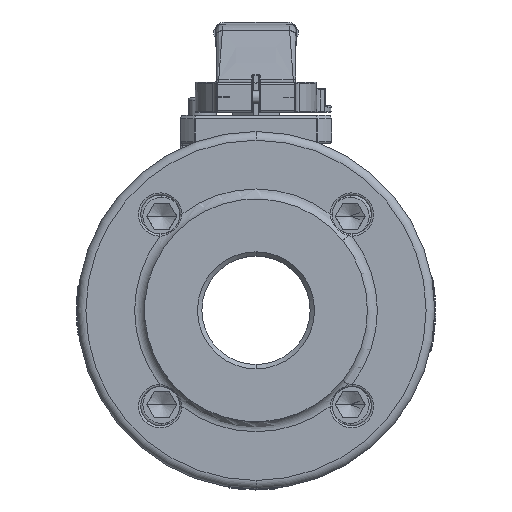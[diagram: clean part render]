
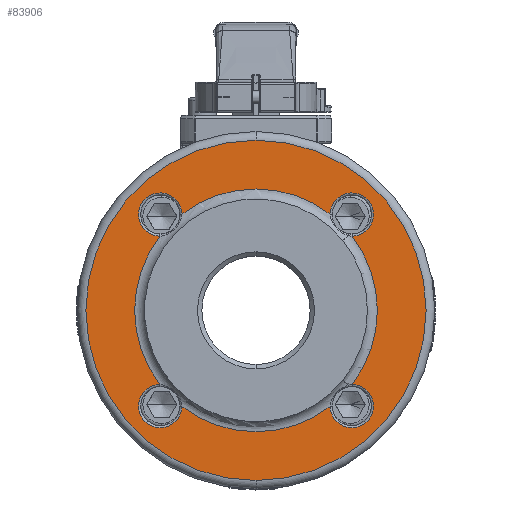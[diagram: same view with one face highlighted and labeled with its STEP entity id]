
A CAD part, left-side view. The second image highlights one B-rep face of the part: STEP entity #83906.
In plain terms, the highlighted planar face has unit normal (-1, 0, 0).
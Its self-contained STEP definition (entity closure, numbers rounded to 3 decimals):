
#19998=CARTESIAN_POINT('',(-57.,0.,0.));
#19999=DIRECTION('',(1.,0.,0.));
#20000=DIRECTION('',(0.,-0.611,-0.792));
#20001=AXIS2_PLACEMENT_3D('',#19998,#19999,#20000);
#20003=CARTESIAN_POINT('',(-57.,0.,0.));
#20004=DIRECTION('',(-1.,0.,0.));
#20005=DIRECTION('',(0.,0.792,0.611));
#20006=AXIS2_PLACEMENT_3D('',#20003,#20004,#20005);
#20008=CARTESIAN_POINT('',(-57.,0.,0.));
#20009=DIRECTION('',(1.,0.,0.));
#20010=DIRECTION('',(0.,0.611,0.792));
#20011=AXIS2_PLACEMENT_3D('',#20008,#20009,#20010);
#20018=CARTESIAN_POINT('',(-57.,0.,0.));
#20019=DIRECTION('',(-1.,0.,0.));
#20020=DIRECTION('',(0.,-0.792,-0.611));
#20021=AXIS2_PLACEMENT_3D('',#20018,#20019,#20020);
#20028=CARTESIAN_POINT('',(-57.,-44.347,
34.195));
#20134=CARTESIAN_POINT('',(-57.,-34.195,
44.347));
#20148=CARTESIAN_POINT('',(-57.,-44.194,44.194));
#20149=DIRECTION('',(1.,0.,0.));
#20150=DIRECTION('',(0.,1.,0.015));
#20151=AXIS2_PLACEMENT_3D('',#20148,#20149,#20150);
#20173=CARTESIAN_POINT('',(-57.,0.,0.));
#20174=DIRECTION('',(1.,0.,0.));
#20175=DIRECTION('',(0.,0.,-1.));
#20176=AXIS2_PLACEMENT_3D('',#20173,#20174,#20175);
#20196=CARTESIAN_POINT('',(-57.,0.,0.));
#20197=DIRECTION('',(1.,0.,0.));
#20198=DIRECTION('',(0.,0.,1.));
#20199=AXIS2_PLACEMENT_3D('',#20196,#20197,#20198);
#20415=CARTESIAN_POINT('',(-57.,44.347,
34.195));
#20479=CARTESIAN_POINT('',(-57.,44.194,44.194));
#20480=DIRECTION('',(1.,0.,0.));
#20481=DIRECTION('',(0.,0.015,-1.));
#20482=AXIS2_PLACEMENT_3D('',#20479,#20480,#20481);
#20488=CARTESIAN_POINT('',(-57.,34.195,
44.347));
#20556=CARTESIAN_POINT('',(-57.,-44.194,-44.194));
#20557=DIRECTION('',(1.,0.,0.));
#20558=DIRECTION('',(0.,-0.015,1.));
#20559=AXIS2_PLACEMENT_3D('',#20556,#20557,#20558);
#20572=CARTESIAN_POINT('',(-57.,-44.347,
-34.195));
#20666=CARTESIAN_POINT('',(-57.,-34.195,
-44.347));
#20724=CARTESIAN_POINT('',(-57.,34.195,
-44.347));
#20738=CARTESIAN_POINT('',(-57.,44.194,-44.194));
#20739=DIRECTION('',(1.,0.,0.));
#20740=DIRECTION('',(0.,-1.,-0.015));
#20741=AXIS2_PLACEMENT_3D('',#20738,#20739,#20740);
#20758=CARTESIAN_POINT('',(-57.,44.347,
-34.195));
#44399=CARTESIAN_POINT('',(-57.,0.,-78.5));
#44400=CARTESIAN_POINT('',(-57.,0.,78.5));
#44401=VERTEX_POINT('',#44399);
#44402=VERTEX_POINT('',#44400);
#44420=VERTEX_POINT('',#20028);
#44425=VERTEX_POINT('',#20134);
#44427=VERTEX_POINT('',#20488);
#44431=VERTEX_POINT('',#20415);
#44439=VERTEX_POINT('',#20758);
#44442=VERTEX_POINT('',#20724);
#44445=VERTEX_POINT('',#20572);
#44452=VERTEX_POINT('',#20666);
#83882=CARTESIAN_POINT('',(-57.,0.,0.));
#83883=DIRECTION('',(-1.,0.,0.));
#83884=DIRECTION('',(0.,0.,1.));
#83885=AXIS2_PLACEMENT_3D('',#83882,#83883,#83884);
#83886=PLANE('',#83885);
#83888=ORIENTED_EDGE('',*,*,#83887,.T.);
#83890=ORIENTED_EDGE('',*,*,#83889,.T.);
#83891=EDGE_LOOP('',(#83888,#83890));
#83892=FACE_OUTER_BOUND('',#83891,.F.);
#83893=ORIENTED_EDGE('',*,*,#83871,.F.);
#83894=ORIENTED_EDGE('',*,*,#83595,.F.);
#83896=ORIENTED_EDGE('',*,*,#83895,.F.);
#83897=ORIENTED_EDGE('',*,*,#83589,.T.);
#83899=ORIENTED_EDGE('',*,*,#83898,.F.);
#83900=ORIENTED_EDGE('',*,*,#83583,.F.);
#83902=ORIENTED_EDGE('',*,*,#83901,.F.);
#83903=ORIENTED_EDGE('',*,*,#83615,.T.);
#83904=EDGE_LOOP('',(#83893,#83894,#83896,#83897,#83899,#83900,#83902,#83903));
#83905=FACE_BOUND('',#83904,.F.);
#83906=ADVANCED_FACE('',(#83892,#83905),#83886,.T.);
#20002=CIRCLE('',#20001,56.);
#20007=CIRCLE('',#20006,56.);
#20012=CIRCLE('',#20011,56.);
#20022=CIRCLE('',#20021,56.);
#20152=CIRCLE('',#20151,10.);
#20177=CIRCLE('',#20176,78.5);
#20200=CIRCLE('',#20199,78.5);
#20483=CIRCLE('',#20482,10.);
#20560=CIRCLE('',#20559,10.);
#20742=CIRCLE('',#20741,10.);
#83583=EDGE_CURVE('',#44452,#44442,#20002,.T.);
#83589=EDGE_CURVE('',#44431,#44439,#20007,.T.);
#83595=EDGE_CURVE('',#44427,#44425,#20012,.T.);
#83615=EDGE_CURVE('',#44445,#44420,#20022,.T.);
#83871=EDGE_CURVE('',#44425,#44420,#20152,.T.);
#83887=EDGE_CURVE('',#44401,#44402,#20177,.T.);
#83889=EDGE_CURVE('',#44402,#44401,#20200,.T.);
#83895=EDGE_CURVE('',#44431,#44427,#20483,.T.);
#83898=EDGE_CURVE('',#44442,#44439,#20742,.T.);
#83901=EDGE_CURVE('',#44445,#44452,#20560,.T.);
